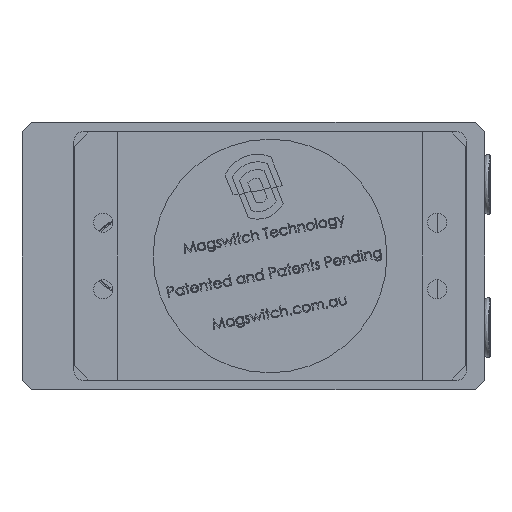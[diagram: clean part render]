
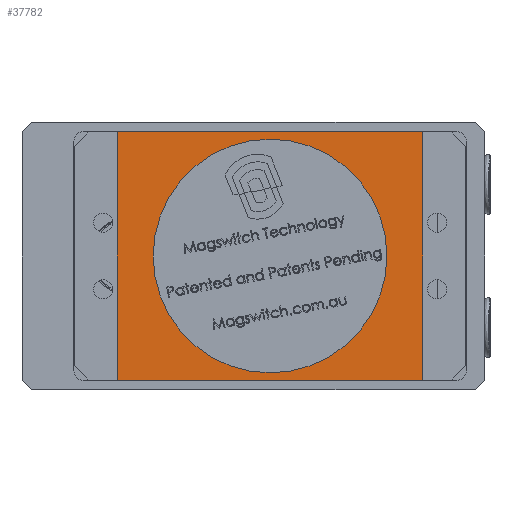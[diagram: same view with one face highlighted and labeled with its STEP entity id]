
A CAD part, front view. The second image highlights one B-rep face of the part: STEP entity #37782.
In plain terms, the highlighted planar face has unit normal (0, -1, 0).
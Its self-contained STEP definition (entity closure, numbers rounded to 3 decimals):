
#3814 = EDGE_CURVE ( 'NONE', #15607, #45579, #50581, .T. ) ;
#3919 = DIRECTION ( 'NONE',  ( 0., 0., -1. ) ) ;
#5254 = EDGE_CURVE ( 'NONE', #45579, #42923, #18792, .T. ) ;
#6801 = FACE_OUTER_BOUND ( 'NONE', #63269, .T. ) ;
#7288 = AXIS2_PLACEMENT_3D ( 'NONE', #36756, #25747, #35867 ) ;
#7467 = AXIS2_PLACEMENT_3D ( 'NONE', #16343, #57546, #62714 ) ;
#9993 = DIRECTION ( 'NONE',  ( 1., 0., 0. ) ) ;
#10691 = CARTESIAN_POINT ( 'NONE',  ( -86., -165.8, -54. ) ) ;
#12215 = CARTESIAN_POINT ( 'NONE',  ( -77., -165.8, -2. ) ) ;
#14520 = ORIENTED_EDGE ( 'NONE', *, *, #61883, .F. ) ;
#15607 = VERTEX_POINT ( 'NONE', #12215 ) ;
#15807 = CARTESIAN_POINT ( 'NONE',  ( -45., -165.8, -52.5 ) ) ;
#16343 = CARTESIAN_POINT ( 'NONE',  ( -45., -165.8, -28. ) ) ;
#17195 = CIRCLE ( 'NONE', #7467, 24.5 ) ;
#17691 = ORIENTED_EDGE ( 'NONE', *, *, #49799, .F. ) ;
#18792 = LINE ( 'NONE', #49849, #47796 ) ;
#18989 = DIRECTION ( 'NONE',  ( 0., 0., 1. ) ) ;
#21239 = PLANE ( 'NONE',  #7288 ) ;
#22432 = AXIS2_PLACEMENT_3D ( 'NONE', #56611, #56195, #51242 ) ;
#22710 = VERTEX_POINT ( 'NONE', #15807 ) ;
#25747 = DIRECTION ( 'NONE',  ( 0., 1., 0. ) ) ;
#31766 = FACE_BOUND ( 'NONE', #35919, .T. ) ;
#32955 = VERTEX_POINT ( 'NONE', #35400 ) ;
#35400 = CARTESIAN_POINT ( 'NONE',  ( -45., -165.8, -3.5 ) ) ;
#35407 = ORIENTED_EDGE ( 'NONE', *, *, #3814, .F. ) ;
#35867 = DIRECTION ( 'NONE',  ( 0., 0., 1. ) ) ;
#35919 = EDGE_LOOP ( 'NONE', ( #58361, #17691 ) ) ;
#36161 = LINE ( 'NONE', #10691, #53112 ) ;
#36342 = DIRECTION ( 'NONE',  ( -1., 0., 0. ) ) ;
#36756 = CARTESIAN_POINT ( 'NONE',  ( -45., -165.8, -28. ) ) ;
#37782 = ADVANCED_FACE ( 'NONE', ( #31766, #6801 ), #21239, .F. ) ;
#39630 = CARTESIAN_POINT ( 'NONE',  ( -13., -165.8, -54. ) ) ;
#42128 = EDGE_CURVE ( 'NONE', #22710, #32955, #17195, .T. ) ;
#42923 = VERTEX_POINT ( 'NONE', #39630 ) ;
#44401 = CARTESIAN_POINT ( 'NONE',  ( -77., -165.8, -2. ) ) ;
#45579 = VERTEX_POINT ( 'NONE', #50312 ) ;
#46364 = LINE ( 'NONE', #44401, #58459 ) ;
#47557 = ORIENTED_EDGE ( 'NONE', *, *, #5254, .F. ) ;
#47796 = VECTOR ( 'NONE', #3919, 1000. ) ;
#49799 = EDGE_CURVE ( 'NONE', #32955, #22710, #50524, .T. ) ;
#49849 = CARTESIAN_POINT ( 'NONE',  ( -13., -165.8, -2. ) ) ;
#50312 = CARTESIAN_POINT ( 'NONE',  ( -13., -165.8, -2. ) ) ;
#50524 = CIRCLE ( 'NONE', #22432, 24.5 ) ;
#50581 = LINE ( 'NONE', #65624, #57822 ) ;
#51242 = DIRECTION ( 'NONE',  ( 0., 0., -1. ) ) ;
#53112 = VECTOR ( 'NONE', #36342, 1000. ) ;
#54694 = CARTESIAN_POINT ( 'NONE',  ( -77., -165.8, -54. ) ) ;
#56195 = DIRECTION ( 'NONE',  ( 0., -1., 0. ) ) ;
#56611 = CARTESIAN_POINT ( 'NONE',  ( -45., -165.8, -28. ) ) ;
#56733 = VERTEX_POINT ( 'NONE', #54694 ) ;
#57546 = DIRECTION ( 'NONE',  ( 0., -1., 0. ) ) ;
#57565 = EDGE_CURVE ( 'NONE', #56733, #15607, #46364, .T. ) ;
#57822 = VECTOR ( 'NONE', #9993, 1000. ) ;
#57956 = ORIENTED_EDGE ( 'NONE', *, *, #57565, .F. ) ;
#58361 = ORIENTED_EDGE ( 'NONE', *, *, #42128, .F. ) ;
#58459 = VECTOR ( 'NONE', #18989, 1000. ) ;
#61883 = EDGE_CURVE ( 'NONE', #42923, #56733, #36161, .T. ) ;
#62714 = DIRECTION ( 'NONE',  ( 0., 0., -1. ) ) ;
#63269 = EDGE_LOOP ( 'NONE', ( #14520, #47557, #35407, #57956 ) ) ;
#65624 = CARTESIAN_POINT ( 'NONE',  ( -86., -165.8, -2. ) ) ;
